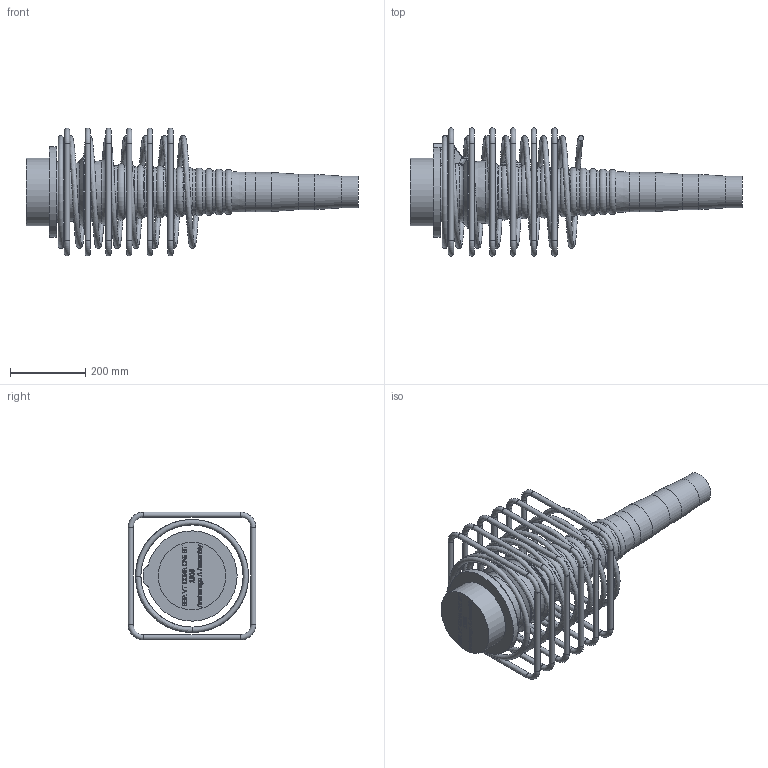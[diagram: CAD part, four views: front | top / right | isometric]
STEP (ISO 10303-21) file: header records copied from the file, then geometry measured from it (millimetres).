
FILE_DESCRIPTION(/* description */ (''),/* implementation_level */ '2;1');
FILE_NAME(/* name */ 'Z:\04 Publications\05 Give-out\BBR\6_3D_Models\BBR VT CONA CMI\BBR VT CONA CMI BT\01306\BBR VT CONA CMI BT 1306_Anchorage A Assembly_CS-34,28.stp',/* time_stamp */ '2017-05-05T08:39:10+02:00',/* author */ ('IP'),/* organization */ (''),/* preprocessor_version */ 'ST-DEVELOPER v16.1',/* originating_system */ 'Autodesk Inventor 2016',/* authorisation */ '');
FILE_SCHEMA (('AUTOMOTIVE_DESIGN { 1 0 10303 214 3 1 1 }'));
Length unit declared in the file: millimetre
Products named in the file (1): BBR VT CONA CMI BT 1306_Anchorage A Assembly_CS-34,28
Bounding box: 882.23 x 340 x 340 mm (x, y, z)
Volume: 14728158.7 mm3; surface area: 1127429.6 mm2
Topology: 8 solids, 8 shells, 806 faces, 2074 edges, 1328 vertices
Faces by surface type: plane 326, bspline 326, torus 80, cylinder 47, cone 17, sphere 10
Full cylindrical faces by diameter (mm): 14 x24, 34 x1, 57 x1, 84 x1, 94 x1, 104 x1, 180 x1, 192.529 x1, 197.205 x1
Entity records: 30444 total; most frequent: CARTESIAN_POINT 12613, ORIENTED_EDGE 3904, DIRECTION 2481, EDGE_CURVE 1952, VERTEX_POINT 1321, LINE 1087, VECTOR 1087, EDGE_LOOP 979
